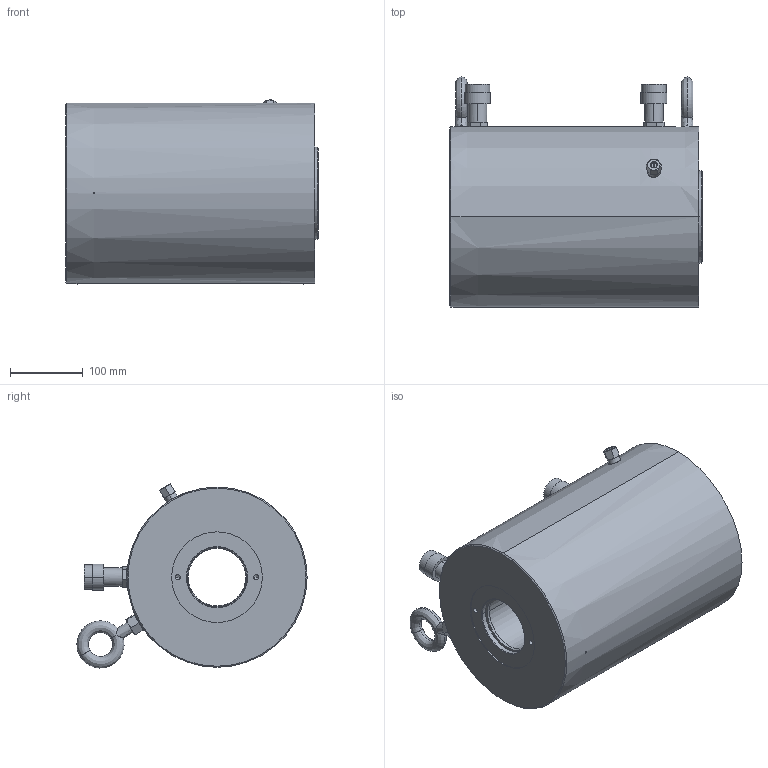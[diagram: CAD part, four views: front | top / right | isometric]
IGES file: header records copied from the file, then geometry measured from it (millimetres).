
Start section:  PTC IGES file: ref1277_sw0001.igs
Global section: file name: ref1277_sw0001.igs; native system: Creo Parametric by Parametric Technology Corporation; preprocessor: 2013230; author: randy.meisner; organization: Unknown; date: 20140612.112452; units: inch
Bounding box: 347.6 x 317.29 x 253.7 mm (x, y, z)
Volume: 12509845.9 mm3; surface area: 1075414 mm2
Topology: 1 solids, 2 shells, 558 faces, 1279 edges, 785 vertices
Faces by surface type: revolution 336, bspline 222
